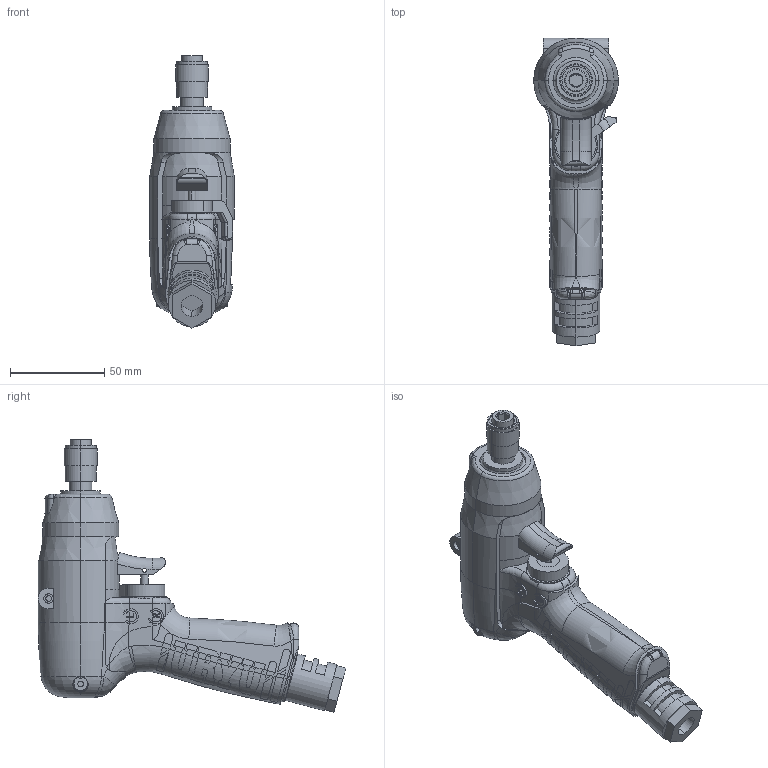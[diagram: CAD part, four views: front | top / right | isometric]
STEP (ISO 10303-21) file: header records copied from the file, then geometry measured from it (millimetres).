
FILE_DESCRIPTION (( 'STEP AP203' ), '1' );
FILE_NAME ('UL30D.step', '2006-01-30T05:45:13', ( '山田　善嗣' ), ( 'TECH' ), 'SwSTEP 2.0', 'SolidWorks 2004073', '' );
FILE_SCHEMA (( 'CONFIG_CONTROL_DESIGN' ));
Length unit declared in the file: millimetre
Products named in the file (10): 4802128_UL30D_蹬怮椔; 0113511_UL30D_蹬怮椔; UL30D; 1478422_UL30D_蹬怮椔; 1438400_UL30D_蹬怮椔; 1471072_UL30D_蹬怮椔; 1430250_UL30D_蹬怮椔; 1433502_UL30D_蹬怮椔; 1434390_UL30D_蹬怮椔; 9810020_UL30D_蹬怮椔
Assembly tree (9 placements, depth 2):
  UL30D
    9810020_UL30D_蹬怮椔
    1478422_UL30D_蹬怮椔
    4802128_UL30D_蹬怮椔
    1438400_UL30D_蹬怮椔
    0113511_UL30D_蹬怮椔
    1434390_UL30D_蹬怮椔
    1430250_UL30D_蹬怮椔
    1471072_UL30D_蹬怮椔
    1433502_UL30D_蹬怮椔
Bounding box: 45 x 163.47 x 144.72 mm (x, y, z)
Volume: 254153.6 mm3; surface area: 80888.4 mm2
Topology: 9 solids, 9 shells, 1313 faces, 3630 edges, 2359 vertices
Faces by surface type: plane 778, cylinder 280, bspline 167, torus 65, cone 15, sphere 8
Entity records: 105894 total; most frequent: CARTESIAN_POINT 74487, ORIENTED_EDGE 7242, DIRECTION 5000, EDGE_CURVE 3621, VERTEX_POINT 2356, AXIS2_PLACEMENT_3D 1727, VECTOR 1546, LINE 1546
